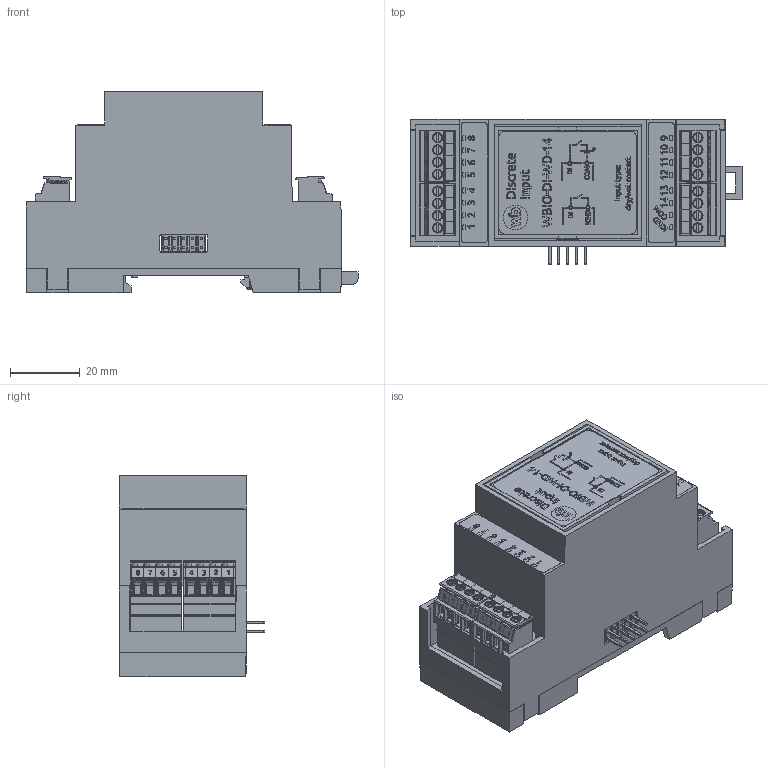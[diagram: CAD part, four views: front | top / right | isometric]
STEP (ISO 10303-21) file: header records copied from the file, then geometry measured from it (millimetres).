
FILE_DESCRIPTION (( 'STEP AP214' ), '1' );
FILE_NAME ('WBIO-DI-WD-14.STEP', '2026-04-28T12:13:55', ( 'Elena' ), ( '' ), 'SwSTEP 2.0', 'SolidWorks 2024', '' );
FILE_SCHEMA (( 'AUTOMOTIVE_DESIGN' ));
Length unit declared in the file: millimetre
Products named in the file (16): sticker WD-14; 15EDGKA-3.5-04P-1Y-100A&Z(H); sticker WD-14 IN clamp 1; sticker WD-14 IN clamp 6; WBIO-DI-WD-14; fixator; sticker WD-14 top clamps; sticker WD-14 IN clamp 7; sticker MR6C IN clamp 2; sticker WD-14 IN clamp 5; 15EDGVC-3.5-04P-14-00A&Z(H); PBD-10R; sticker WD-14 bottom clamps; sticker WD-14 IN clamp 3; D2MG-WBIO; PLD-10-3
Assembly tree (23 placements, depth 2):
  WBIO-DI-WD-14
    D2MG-WBIO
    PBD-10R
    PLD-10-3
    15EDGKA-3.5-04P-1Y-100A&Z(H)  x4
    15EDGVC-3.5-04P-14-00A&Z(H)  x4
    sticker WD-14 top clamps
    sticker WD-14 bottom clamps
    sticker WD-14 IN clamp 6
    sticker WD-14 IN clamp 7
    sticker MR6C IN clamp 2  x3
    sticker WD-14 IN clamp 5
    sticker WD-14 IN clamp 1
    sticker WD-14 IN clamp 3
    sticker WD-14
    fixator
Bounding box: 94.93 x 41.6 x 57.7 mm (x, y, z)
Volume: 43716.4 mm3; surface area: 61894 mm2
Topology: 46 solids, 46 shells, 6710 faces, 20259 edges, 13983 vertices
Faces by surface type: plane 4831, cylinder 1023, cone 328, torus 304, bspline 160, sphere 64
Entity records: 134461 total; most frequent: CARTESIAN_POINT 30201, ORIENTED_EDGE 18880, DIRECTION 12837, EDGE_CURVE 9440, VERTEX_POINT 7055, LINE 6031, VECTOR 6031, AXIS2_PLACEMENT_3D 3403
